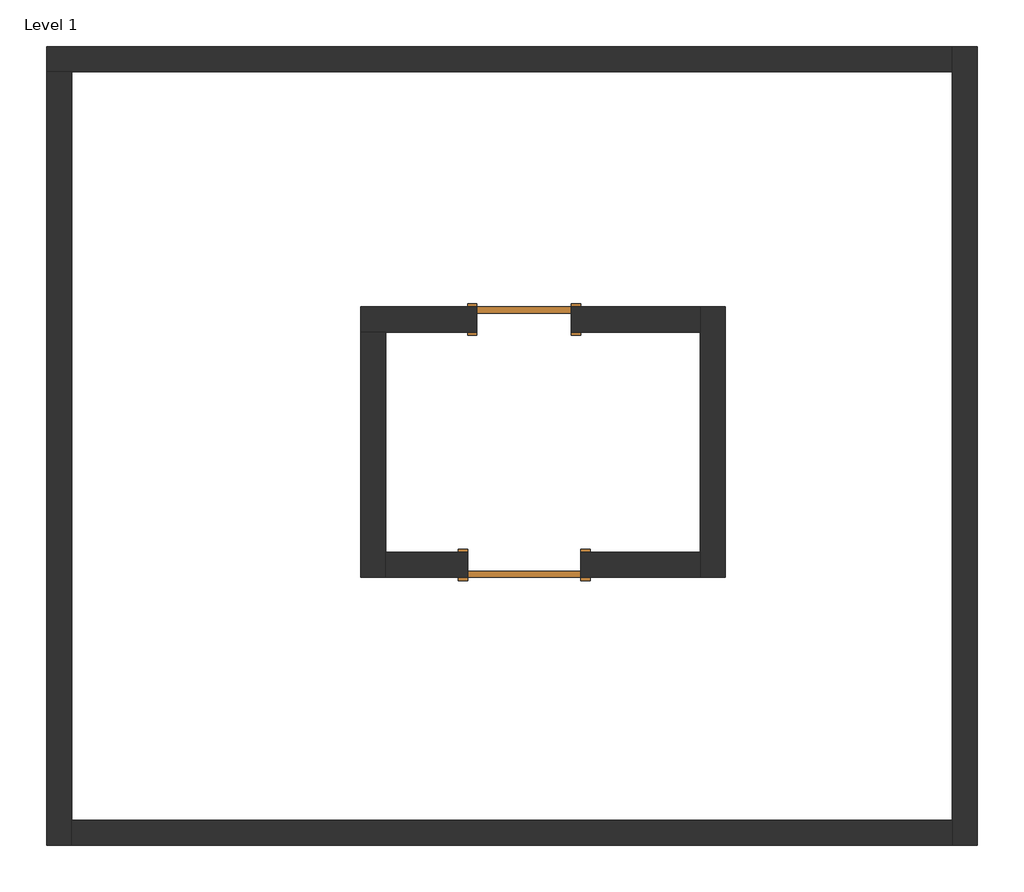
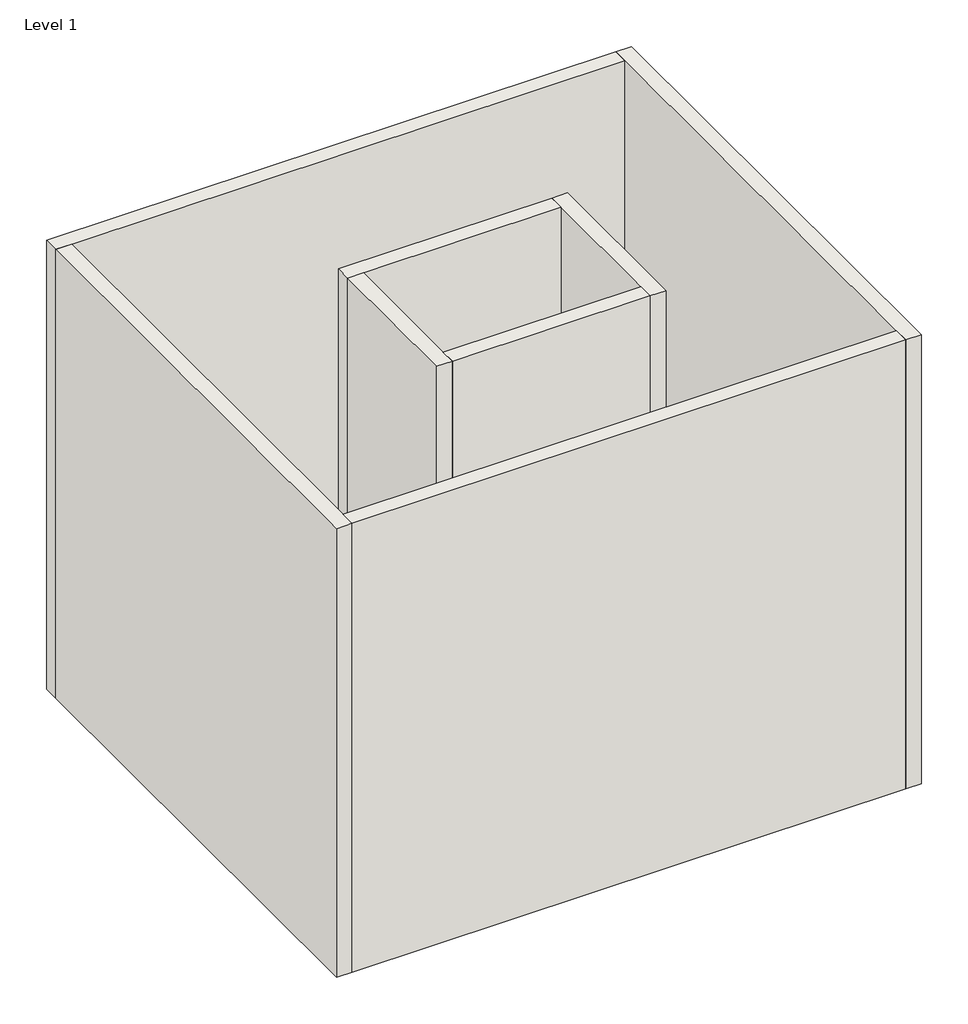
# One storey: 8 walls, 2 doors.
"""IFC4 building model written with IfcOpenShell, lengths in millimetres."""

from ifc_helpers import new_model, si_unit, frame, origin, origin_with_axes, place, context, project, spatial, polyline, outline, extrude, faceted_brep, transform, mapped, element, save
from components import door_b6acaa4e, door_54dd4da4

model = new_model("IFC4")

# Units and contexts
model_context = context("Model", 3, world=origin())
ifc_project = project(units=[si_unit("LENGTHUNIT", "METRE", prefix="MILLI")], contexts=[model_context])

# Site, building, storey
site = spatial("IfcSite", under=ifc_project)
building = spatial("IfcBuilding", under=site)
storey = spatial("IfcBuildingStorey", under=building, Name="Level 1", Elevation=0.0)

# Doors
placement = place(None, origin())
door_shape = door_b6acaa4e(model_context)
element("IfcDoor", 1, ObjectType="Single-Flush : 30\" x 84\"", at=placement, inside=storey, context=model_context, shape_type="MappedRepresentation", body=[
    mapped(door_shape, transform((-4991.2518585, 3161.3909075, 0.0), x_axis=(1.0, 0.0, 0.0), y_axis=(0.0, 1.0, 0.0), z_axis=(0.0, 0.0, 1.0))),
])
door_2_shape = door_54dd4da4(model_context)
element("IfcDoor", 2, ObjectType="Single-Flush : 36\" x 84\"", at=placement, inside=storey, context=model_context, shape_type="MappedRepresentation", body=[
    mapped(door_2_shape, transform((-4991.2518585, 1180.1909075, 0.0), x_axis=(-1.0, 0.0, 0.0), y_axis=(0.0, -1.0, 0.0), z_axis=(0.0, 0.0, 1.0))),
])

# Walls
element("IfcWall", 3, ObjectType="Generic - 8\"", at=placement, inside=storey, context=model_context, shape_type="Brep", body=[
    faceted_brep([(-8848.4985037, 5163.1856864, 0.0), (-8645.2985037, 5163.1856864, 0.0), (-1533.2985037, 5163.1856864, 0.0), (-1533.2985037, 5163.1856864, 6096.0), (-8645.2985037, 5163.1856864, 6096.0), (-8848.4985037, 5163.1856864, 6096.0), (-8848.4985037, 5366.3856864, 0.0), (-8848.4985037, 5366.3856864, 6096.0), (-1533.2985037, 5366.3856864, 6096.0), (-1533.2985037, 5366.3856864, 0.0)], [[[0, 1, 2, 3, 4, 5]], [[6, 7, 8, 9]], [[2, 1, 0, 6, 9]], [[5, 4, 3, 8, 7]], [[0, 5, 7, 6]], [[3, 2, 9, 8]]]),
])
element("IfcWall", 4, ObjectType="Generic - 8\"", at=placement, inside=storey, context=model_context, shape_type="Brep", body=[
    faceted_brep([(-8645.2985037, -1085.2143136, 0.0), (-8645.2985037, -882.0143136, 0.0), (-8645.2985037, 5163.1856864, 0.0), (-8645.2985037, 5163.1856864, 6096.0), (-8645.2985037, -882.0143136, 6096.0), (-8645.2985037, -1085.2143136, 6096.0), (-8848.4985037, -1085.2143136, 0.0), (-8848.4985037, -1085.2143136, 6096.0), (-8848.4985037, 5163.1856864, 6096.0), (-8848.4985037, 5163.1856864, 0.0)], [[[0, 1, 2, 3, 4, 5]], [[6, 7, 8, 9]], [[2, 1, 0, 6, 9]], [[5, 4, 3, 8, 7]], [[0, 5, 7, 6]], [[3, 2, 9, 8]]]),
])
element("IfcWall", 5, ObjectType="Generic - 8\"", at=placement, inside=storey, context=model_context, shape_type="SweptSolid", body=[
    extrude(outline(polyline([(-8645.2985037, -882.0143136), (-1533.2985037, -882.0143136), (-1533.2985037, -1085.2143136), (-8645.2985037, -1085.2143136), (-8645.2985037, -882.0143136)])), origin_with_axes(), (0.0, 0.0, 1.0), 6096.0),
])
element("IfcWall", 6, ObjectType="Generic - 8\"", at=placement, inside=storey, context=model_context, shape_type="Brep", body=[
    faceted_brep([(-1533.2985037, 5366.3856864, 0.0), (-1533.2985037, 5163.1856864, 0.0), (-1533.2985037, -882.0143136, 0.0), (-1533.2985037, -1085.2143136, 0.0), (-1533.2985037, -1085.2143136, 6096.0), (-1533.2985037, -882.0143136, 6096.0), (-1533.2985037, 5163.1856864, 6096.0), (-1533.2985037, 5366.3856864, 6096.0), (-1330.0985037, 5366.3856864, 0.0), (-1330.0985037, 5366.3856864, 6096.0), (-1330.0985037, -1085.2143136, 6096.0), (-1330.0985037, -1085.2143136, 0.0)], [[[0, 1, 2, 3, 4, 5, 6, 7]], [[8, 9, 10, 11]], [[3, 2, 1, 0, 8, 11]], [[7, 6, 5, 4, 10, 9]], [[0, 7, 9, 8]], [[4, 3, 11, 10]]]),
])
element("IfcWall", 7, ObjectType="Generic - 8\"", at=placement, inside=storey, context=model_context, shape_type="Brep", body=[
    faceted_brep([(-4610.2518585, 3059.7909075, 2133.6), (-4610.2518585, 3059.7909075, 0.0), (-3568.8518585, 3059.7909075, 0.0), (-3568.8518585, 3059.7909075, 6096.0), (-6108.8518585, 3059.7909075, 6096.0), (-6312.0518585, 3059.7909075, 6096.0), (-6312.0518585, 3059.7909075, 0.0), (-6108.8518585, 3059.7909075, 0.0), (-5372.2518585, 3059.7909075, 0.0), (-5372.2518585, 3059.7909075, 2133.6), (-3568.8518585, 3262.9909075, 0.0), (-4610.2518585, 3262.9909075, 0.0), (-4610.2518585, 3262.9909075, 2133.6), (-5372.2518585, 3262.9909075, 2133.6), (-5372.2518585, 3262.9909075, 0.0), (-6312.0518585, 3262.9909075, 0.0), (-6312.0518585, 3262.9909075, 6096.0), (-3568.8518585, 3262.9909075, 6096.0)], [[[0, 1, 2, 3, 4, 5, 6, 7, 8, 9]], [[10, 11, 12, 13, 14, 15, 16, 17]], [[2, 1, 11, 10]], [[8, 7, 6, 15, 14]], [[5, 4, 3, 17, 16]], [[6, 5, 16, 15]], [[3, 2, 10, 17]], [[12, 11, 1, 0]], [[13, 12, 0, 9]], [[14, 13, 9, 8]]]),
])
element("IfcWall", 8, ObjectType="Generic - 8\"", at=placement, inside=storey, context=model_context, shape_type="Brep", body=[
    faceted_brep([(-6108.8518585, 1078.5909075, 0.0), (-6108.8518585, 1281.7909075, 0.0), (-6108.8518585, 3059.7909075, 0.0), (-6108.8518585, 3059.7909075, 6096.0), (-6108.8518585, 1281.7909075, 6096.0), (-6108.8518585, 1078.5909075, 6096.0), (-6312.0518585, 1078.5909075, 0.0), (-6312.0518585, 1078.5909075, 6096.0), (-6312.0518585, 3059.7909075, 6096.0), (-6312.0518585, 3059.7909075, 0.0)], [[[0, 1, 2, 3, 4, 5]], [[6, 7, 8, 9]], [[2, 1, 0, 6, 9]], [[5, 4, 3, 8, 7]], [[0, 5, 7, 6]], [[3, 2, 9, 8]]]),
])
element("IfcWall", 9, ObjectType="Generic - 8\"", at=placement, inside=storey, context=model_context, shape_type="SweptSolid", body=[
    extrude(outline(polyline([(0.0, -6108.8518585), (0.0, -5448.4518585), (2133.6, -5448.4518585), (2133.6, -4534.0518585), (0.0, -4534.0518585), (0.0, -3568.8518585), (6096.0, -3568.8518585), (6096.0, -6108.8518585), (0.0, -6108.8518585)])), frame((0.0, 1078.5909075, 0.0), z_axis=(0.0, 1.0, 0.0), x_axis=(0.0, 0.0, 1.0)), (0.0, 0.0, 1.0), 203.2),
])
element("IfcWall", 10, ObjectType="Generic - 8\"", at=placement, inside=storey, context=model_context, shape_type="Brep", body=[
    faceted_brep([(-3568.8518585, 3262.9909075, 0.0), (-3568.8518585, 3059.7909075, 0.0), (-3568.8518585, 1281.7909075, 0.0), (-3568.8518585, 1078.5909075, 0.0), (-3568.8518585, 1078.5909075, 6096.0), (-3568.8518585, 1281.7909075, 6096.0), (-3568.8518585, 3059.7909075, 6096.0), (-3568.8518585, 3262.9909075, 6096.0), (-3365.6518585, 3262.9909075, 0.0), (-3365.6518585, 3262.9909075, 6096.0), (-3365.6518585, 1078.5909075, 6096.0), (-3365.6518585, 1078.5909075, 0.0)], [[[0, 1, 2, 3, 4, 5, 6, 7]], [[8, 9, 10, 11]], [[3, 2, 1, 0, 8, 11]], [[7, 6, 5, 4, 10, 9]], [[0, 7, 9, 8]], [[4, 3, 11, 10]]]),
])

save(model, "model.ifc")
